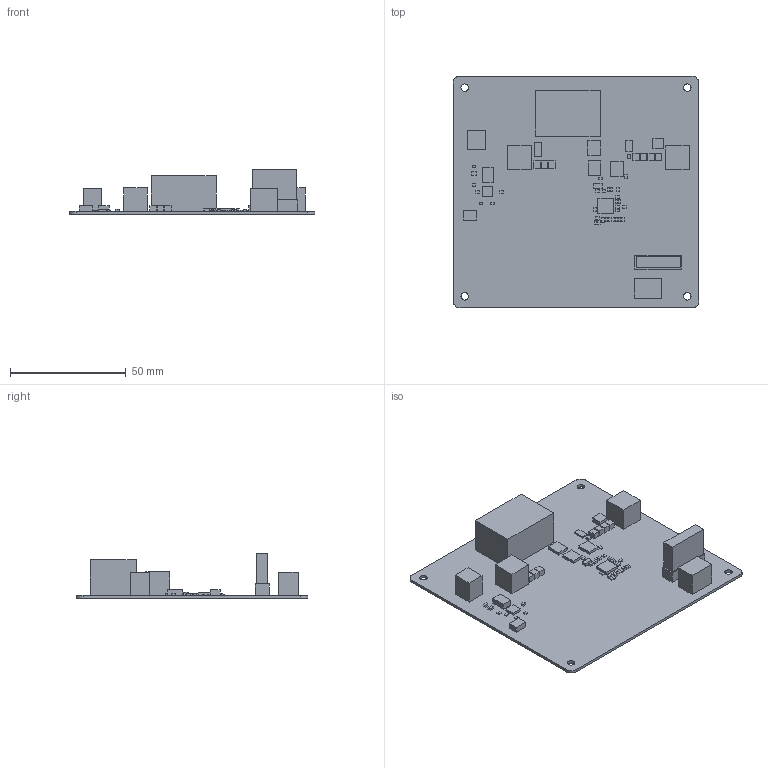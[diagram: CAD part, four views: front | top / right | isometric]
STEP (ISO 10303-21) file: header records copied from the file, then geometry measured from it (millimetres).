
FILE_DESCRIPTION(('Open CASCADE Model'),'2;1');
FILE_NAME('Open CASCADE Shape Model','2026-09-27T12:05:16',('Author'),( 'Open CASCADE'),'Open CASCADE STEP processor 8.0','Open CASCADE 8.0' ,'Unknown');
FILE_SCHEMA(('AUTOMOTIVE_DESIGN { 1 0 10303 214 1 1 1 1 }'));
Length unit declared in the file: millimetre
Products named in the file (59): Open CASCADE STEP translator 8.0 4; Open CASCADE STEP translator 8.0 4.1; Open CASCADE STEP translator 8.0 4.2; Open CASCADE STEP translator 8.0 4.3; Open CASCADE STEP translator 8.0 4.4; Open CASCADE STEP translator 8.0 4.5; Open CASCADE STEP translator 8.0 4.6; Open CASCADE STEP translator 8.0 4.7; Open CASCADE STEP translator 8.0 4.8; Open CASCADE STEP translator 8.0 4.9; Open CASCADE STEP translator 8.0 4.10; Open CASCADE STEP translator 8.0 4.11; Open CASCADE STEP translator 8.0 4.12; Open CASCADE STEP translator 8.0 4.13; Open CASCADE STEP translator 8.0 4.14; Open CASCADE STEP translator 8.0 4.15; Open CASCADE STEP translator 8.0 4.16; Open CASCADE STEP translator 8.0 4.17; Open CASCADE STEP translator 8.0 4.18; Open CASCADE STEP translator 8.0 4.19; Open CASCADE STEP translator 8.0 4.20; Open CASCADE STEP translator 8.0 4.21; Open CASCADE STEP translator 8.0 4.22; Open CASCADE STEP translator 8.0 4.23; Open CASCADE STEP translator 8.0 4.24; Open CASCADE STEP translator 8.0 4.25; Open CASCADE STEP translator 8.0 4.26; Open CASCADE STEP translator 8.0 4.27; Open CASCADE STEP translator 8.0 4.28; Open CASCADE STEP translator 8.0 4.29; Open CASCADE STEP translator 8.0 4.30; Open CASCADE STEP translator 8.0 4.31; Open CASCADE STEP translator 8.0 4.32; Open CASCADE STEP translator 8.0 4.33; Open CASCADE STEP translator 8.0 4.34; Open CASCADE STEP translator 8.0 4.35; Open CASCADE STEP translator 8.0 4.36; Open CASCADE STEP translator 8.0 4.37; Open CASCADE STEP translator 8.0 4.38; Open CASCADE STEP translator 8.0 4.39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
Assembly tree (58 placements, depth 2):
  Open CASCADE STEP translator 8.0 4
    Open CASCADE STEP translator 8.0 4.1
    Open CASCADE STEP translator 8.0 4.2
    Open CASCADE STEP translator 8.0 4.3
    Open CASCADE STEP translator 8.0 4.4
    Open CASCADE STEP translator 8.0 4.5
    Open CASCADE STEP translator 8.0 4.6
    Open CASCADE STEP translator 8.0 4.7
    Open CASCADE STEP translator 8.0 4.8
    Open CASCADE STEP translator 8.0 4.9
    Open CASCADE STEP translator 8.0 4.10
    Open CASCADE STEP translator 8.0 4.11
    Open CASCADE STEP translator 8.0 4.12
    Open CASCADE STEP translator 8.0 4.13
    Open CASCADE STEP translator 8.0 4.14
    Open CASCADE STEP translator 8.0 4.15
    Open CASCADE STEP translator 8.0 4.16
    Open CASCADE STEP translator 8.0 4.17
    Open CASCADE STEP translator 8.0 4.18
    Open CASCADE STEP translator 8.0 4.19
    Open CASCADE STEP translator 8.0 4.20
    Open CASCADE STEP translator 8.0 4.21
    Open CASCADE STEP translator 8.0 4.22
    Open CASCADE STEP translator 8.0 4.23
    Open CASCADE STEP translator 8.0 4.24
    Open CASCADE STEP translator 8.0 4.25
    Open CASCADE STEP translator 8.0 4.26
    Open CASCADE STEP translator 8.0 4.27
    Open CASCADE STEP translator 8.0 4.28
    Open CASCADE STEP translator 8.0 4.29
    Open CASCADE STEP translator 8.0 4.30
    Open CASCADE STEP translator 8.0 4.31
    Open CASCADE STEP translator 8.0 4.32
    Open CASCADE STEP translator 8.0 4.33
    Open CASCADE STEP translator 8.0 4.34
    Open CASCADE STEP translator 8.0 4.35
    Open CASCADE STEP translator 8.0 4.36
    Open CASCADE STEP translator 8.0 4.37
    Open CASCADE STEP translator 8.0 4.38
    Open CASCADE STEP translator 8.0 4.39
    Open CASCADE STEP translator 8.0 4.40
    Open CASCADE STEP translator 8.0 4.41
    Open CASCADE STEP translator 8.0 4.42
    Open CASCADE STEP translator 8.0 4.43
    Open CASCADE STEP translator 8.0 4.44
    Open CASCADE STEP translator 8.0 4.45
    Open CASCADE STEP translator 8.0 4.46
    Open CASCADE STEP translator 8.0 4.47
    Open CASCADE STEP translator 8.0 4.48
    Open CASCADE STEP translator 8.0 4.49
    Open CASCADE STEP translator 8.0 4.50
    Open CASCADE STEP translator 8.0 4.51
    Open CASCADE STEP translator 8.0 4.52
    Open CASCADE STEP translator 8.0 4.53
    Open CASCADE STEP translator 8.0 4.54
    Open CASCADE STEP translator 8.0 4.55
    Open CASCADE STEP translator 8.0 4.56
    Open CASCADE STEP translator 8.0 4.57
    Open CASCADE STEP translator 8.0 4.58
Bounding box: 106 x 100 x 19.2 mm (x, y, z)
Volume: 27479.3 mm3; surface area: 29380.3 mm2
Topology: 58 solids, 58 shells, 370 faces, 762 edges, 508 vertices
Faces by surface type: plane 342, bspline 28
Entity records: 20916 total; most frequent: CARTESIAN_POINT 4337, DIRECTION 2854, LINE 2052, VECTOR 2052, ORIENTED_EDGE 1524, PCURVE 1524, DEFINITIONAL_REPRESENTATION 1524, EDGE_CURVE 762
